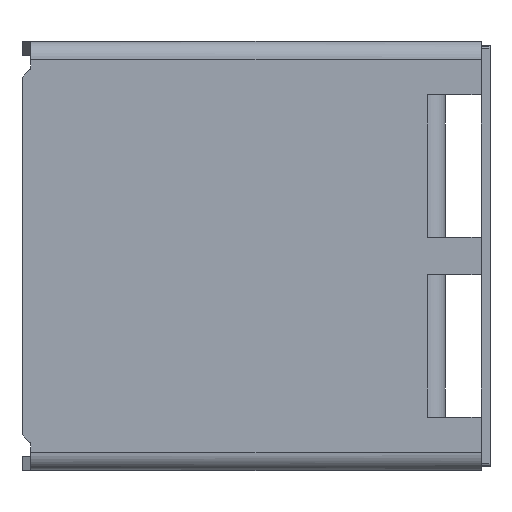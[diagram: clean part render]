
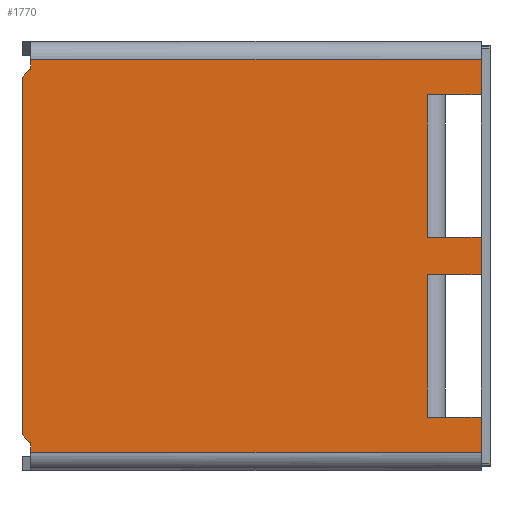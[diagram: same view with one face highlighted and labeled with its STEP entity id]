
A CAD part, left-side view. The second image highlights one B-rep face of the part: STEP entity #1770.
In plain terms, the highlighted planar face has unit normal (-1, 0, 0).
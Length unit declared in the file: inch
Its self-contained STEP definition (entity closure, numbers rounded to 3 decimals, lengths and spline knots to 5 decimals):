
#17 = CARTESIAN_POINT ( 'NONE',  ( 0., 7., 6. ) ) ;
#37 = LINE ( 'NONE', #357, #1996 ) ;
#68 = LINE ( 'NONE', #899, #710 ) ;
#133 = CARTESIAN_POINT ( 'NONE',  ( 0., 5., 42.125 ) ) ;
#192 = EDGE_CURVE ( 'NONE', #2138, #1402, #289, .T. ) ;
#228 = DIRECTION ( 'NONE',  ( 0., 1., 0. ) ) ;
#244 = LINE ( 'NONE', #1327, #1728 ) ;
#289 = LINE ( 'NONE', #2495, #3154 ) ;
#324 = LINE ( 'NONE', #3228, #1017 ) ;
#357 = CARTESIAN_POINT ( 'NONE',  ( 0., 5., 6. ) ) ;
#426 = VERTEX_POINT ( 'NONE', #1163 ) ;
#538 = ORIENTED_EDGE ( 'NONE', *, *, #192, .T. ) ;
#555 = DIRECTION ( 'NONE',  ( 0., -1., 0. ) ) ;
#607 = EDGE_CURVE ( 'NONE', #1593, #2138, #2202, .T. ) ;
#643 = VERTEX_POINT ( 'NONE', #921 ) ;
#646 = EDGE_LOOP ( 'NONE', ( #1546, #1949, #2734, #2028, #3415, #1607, #2045, #538, #1563, #1572, #1511, #2904, #3107, #2521, #3082, #2588 ) ) ;
#667 = CARTESIAN_POINT ( 'NONE',  ( 0., 51.5, 45.12503 ) ) ;
#680 = VECTOR ( 'NONE', #2783, 39.37008 ) ;
#710 = VECTOR ( 'NONE', #1421, 39.37008 ) ;
#752 = VECTOR ( 'NONE', #1660, 39.37008 ) ;
#821 = VECTOR ( 'NONE', #2740, 39.37008 ) ;
#847 = DIRECTION ( 'NONE',  ( 0., 0., -1. ) ) ;
#853 = LINE ( 'NONE', #1597, #2939 ) ;
#876 = DIRECTION ( 'NONE',  ( 0., -1., 0. ) ) ;
#877 = DIRECTION ( 'NONE',  ( 0., 0., 1. ) ) ;
#899 = CARTESIAN_POINT ( 'NONE',  ( 0., 51.5, 24.0625 ) ) ;
#921 = CARTESIAN_POINT ( 'NONE',  ( 0., 7., 21.9375 ) ) ;
#975 = CARTESIAN_POINT ( 'NONE',  ( 0., 1., 6. ) ) ;
#998 = CARTESIAN_POINT ( 'NONE',  ( 0., 52.5, 44.12497 ) ) ;
#1017 = VECTOR ( 'NONE', #555, 39.37008 ) ;
#1041 = CARTESIAN_POINT ( 'NONE',  ( 0., 51.5, 2. ) ) ;
#1043 = EDGE_CURVE ( 'NONE', #3243, #1633, #1520, .T. ) ;
#1047 = EDGE_CURVE ( 'NONE', #1593, #2375, #2982, .T. ) ;
#1058 = EDGE_CURVE ( 'NONE', #426, #2375, #2903, .T. ) ;
#1064 = EDGE_CURVE ( 'NONE', #426, #2421, #1442, .T. ) ;
#1067 = CARTESIAN_POINT ( 'NONE',  ( 0., 36.28284, -12.21812 ) ) ;
#1071 = CARTESIAN_POINT ( 'NONE',  ( 0., 0., 2. ) ) ;
#1073 = EDGE_CURVE ( 'NONE', #2421, #643, #2822, .T. ) ;
#1076 = EDGE_CURVE ( 'NONE', #2983, #643, #2248, .T. ) ;
#1096 = EDGE_CURVE ( 'NONE', #2983, #2040, #37, .T. ) ;
#1101 = CARTESIAN_POINT ( 'NONE',  ( 0., 1., 24.0625 ) ) ;
#1114 = EDGE_CURVE ( 'NONE', #3243, #3394, #3430, .T. ) ;
#1137 = CARTESIAN_POINT ( 'NONE',  ( 0., 7., 24.0625 ) ) ;
#1163 = CARTESIAN_POINT ( 'NONE',  ( 0., 1., 26.1875 ) ) ;
#1186 = CARTESIAN_POINT ( 'NONE',  ( 0., 1., 2. ) ) ;
#1223 = EDGE_CURVE ( 'NONE', #2059, #1402, #324, .T. ) ;
#1235 = EDGE_CURVE ( 'NONE', #2040, #1995, #244, .T. ) ;
#1240 = EDGE_CURVE ( 'NONE', #1633, #2059, #853, .T. ) ;
#1244 = EDGE_CURVE ( 'NONE', #3394, #2435, #3021, .T. ) ;
#1327 = CARTESIAN_POINT ( 'NONE',  ( 0., 1., 24.0625 ) ) ;
#1348 = VECTOR ( 'NONE', #2493, 39.37008 ) ;
#1354 = DIRECTION ( 'NONE',  ( 0., -1., 0. ) ) ;
#1367 = DIRECTION ( 'NONE',  ( 0., 0., -1. ) ) ;
#1395 = CARTESIAN_POINT ( 'NONE',  ( 0., 5., 26.1875 ) ) ;
#1402 = VERTEX_POINT ( 'NONE', #3296 ) ;
#1421 = DIRECTION ( 'NONE',  ( 0., 0., -1. ) ) ;
#1440 = VECTOR ( 'NONE', #2230, 39.37008 ) ;
#1442 = LINE ( 'NONE', #1101, #2086 ) ;
#1511 = ORIENTED_EDGE ( 'NONE', *, *, #1043, .F. ) ;
#1520 = LINE ( 'NONE', #2458, #821 ) ;
#1528 = CARTESIAN_POINT ( 'NONE',  ( 0., 51.5, 46.125 ) ) ;
#1546 = ORIENTED_EDGE ( 'NONE', *, *, #1096, .F. ) ;
#1559 = EDGE_CURVE ( 'NONE', #2435, #3435, #68, .T. ) ;
#1560 = VECTOR ( 'NONE', #2152, 39.37008 ) ;
#1563 = ORIENTED_EDGE ( 'NONE', *, *, #1223, .F. ) ;
#1572 = ORIENTED_EDGE ( 'NONE', *, *, #1240, .F. ) ;
#1593 = VERTEX_POINT ( 'NONE', #3083 ) ;
#1597 = CARTESIAN_POINT ( 'NONE',  ( 0., 51.5, 24.0625 ) ) ;
#1607 = ORIENTED_EDGE ( 'NONE', *, *, #1047, .F. ) ;
#1633 = VERTEX_POINT ( 'NONE', #667 ) ;
#1660 = DIRECTION ( 'NONE',  ( 0., 1., 0. ) ) ;
#1707 = VECTOR ( 'NONE', #1354, 39.37008 ) ;
#1728 = VECTOR ( 'NONE', #2974, 39.37008 ) ;
#1770 = ADVANCED_FACE ( 'NONE', ( #2546 ), #3432, .F. ) ;
#1798 = DIRECTION ( 'NONE',  ( 1., 0., 0. ) ) ;
#1865 = CARTESIAN_POINT ( 'NONE',  ( 0., 7., 26.1875 ) ) ;
#1904 = CARTESIAN_POINT ( 'NONE',  ( 0., 7., 24.0625 ) ) ;
#1949 = ORIENTED_EDGE ( 'NONE', *, *, #1076, .T. ) ;
#1995 = VERTEX_POINT ( 'NONE', #1186 ) ;
#1996 = VECTOR ( 'NONE', #876, 39.37008 ) ;
#2028 = ORIENTED_EDGE ( 'NONE', *, *, #1064, .F. ) ;
#2040 = VERTEX_POINT ( 'NONE', #975 ) ;
#2045 = ORIENTED_EDGE ( 'NONE', *, *, #607, .T. ) ;
#2059 = VERTEX_POINT ( 'NONE', #1528 ) ;
#2086 = VECTOR ( 'NONE', #1367, 39.37008 ) ;
#2138 = VERTEX_POINT ( 'NONE', #2371 ) ;
#2152 = DIRECTION ( 'NONE',  ( 0., -0.707, -0.707 ) ) ;
#2161 = VECTOR ( 'NONE', #847, 39.37008 ) ;
#2202 = LINE ( 'NONE', #133, #2771 ) ;
#2216 = CARTESIAN_POINT ( 'NONE',  ( 0., 5., 21.9375 ) ) ;
#2230 = DIRECTION ( 'NONE',  ( 0., 0., -1. ) ) ;
#2248 = LINE ( 'NONE', #1137, #1348 ) ;
#2371 = CARTESIAN_POINT ( 'NONE',  ( 0., 1., 42.125 ) ) ;
#2375 = VERTEX_POINT ( 'NONE', #1865 ) ;
#2396 = EDGE_CURVE ( 'NONE', #3435, #1995, #2431, .T. ) ;
#2421 = VERTEX_POINT ( 'NONE', #2732 ) ;
#2431 = LINE ( 'NONE', #1071, #1707 ) ;
#2435 = VERTEX_POINT ( 'NONE', #2459 ) ;
#2458 = CARTESIAN_POINT ( 'NONE',  ( 0., 36.28284, 60.34312 ) ) ;
#2459 = CARTESIAN_POINT ( 'NONE',  ( 0., 51.5, 2.99997 ) ) ;
#2493 = DIRECTION ( 'NONE',  ( 0., 0., 1. ) ) ;
#2495 = CARTESIAN_POINT ( 'NONE',  ( 0., 1., 24.0625 ) ) ;
#2509 = CARTESIAN_POINT ( 'NONE',  ( 0., 52.5, 24.0625 ) ) ;
#2521 = ORIENTED_EDGE ( 'NONE', *, *, #1559, .T. ) ;
#2546 = FACE_OUTER_BOUND ( 'NONE', #646, .T. ) ;
#2588 = ORIENTED_EDGE ( 'NONE', *, *, #1235, .F. ) ;
#2655 = AXIS2_PLACEMENT_3D ( 'NONE', #2907, #1798, #228 ) ;
#2701 = DIRECTION ( 'NONE',  ( 0., 0., 1. ) ) ;
#2732 = CARTESIAN_POINT ( 'NONE',  ( 0., 1., 21.9375 ) ) ;
#2734 = ORIENTED_EDGE ( 'NONE', *, *, #1073, .F. ) ;
#2740 = DIRECTION ( 'NONE',  ( 0., -0.707, 0.707 ) ) ;
#2771 = VECTOR ( 'NONE', #3328, 39.37008 ) ;
#2783 = DIRECTION ( 'NONE',  ( 0., 1., 0. ) ) ;
#2822 = LINE ( 'NONE', #2216, #680 ) ;
#2903 = LINE ( 'NONE', #1395, #752 ) ;
#2904 = ORIENTED_EDGE ( 'NONE', *, *, #1114, .T. ) ;
#2907 = CARTESIAN_POINT ( 'NONE',  ( 0., 0., 24.0625 ) ) ;
#2931 = CARTESIAN_POINT ( 'NONE',  ( 0., 52.5, 4.00003 ) ) ;
#2939 = VECTOR ( 'NONE', #2701, 39.37008 ) ;
#2974 = DIRECTION ( 'NONE',  ( 0., 0., -1. ) ) ;
#2982 = LINE ( 'NONE', #1904, #2161 ) ;
#2983 = VERTEX_POINT ( 'NONE', #17 ) ;
#3021 = LINE ( 'NONE', #1067, #1560 ) ;
#3082 = ORIENTED_EDGE ( 'NONE', *, *, #2396, .T. ) ;
#3083 = CARTESIAN_POINT ( 'NONE',  ( 0., 7., 42.125 ) ) ;
#3107 = ORIENTED_EDGE ( 'NONE', *, *, #1244, .T. ) ;
#3154 = VECTOR ( 'NONE', #877, 39.37008 ) ;
#3228 = CARTESIAN_POINT ( 'NONE',  ( 0., 0., 46.125 ) ) ;
#3243 = VERTEX_POINT ( 'NONE', #998 ) ;
#3296 = CARTESIAN_POINT ( 'NONE',  ( 0., 1., 46.125 ) ) ;
#3328 = DIRECTION ( 'NONE',  ( 0., -1., 0. ) ) ;
#3394 = VERTEX_POINT ( 'NONE', #2931 ) ;
#3415 = ORIENTED_EDGE ( 'NONE', *, *, #1058, .T. ) ;
#3430 = LINE ( 'NONE', #2509, #1440 ) ;
#3432 = PLANE ( 'NONE',  #2655 ) ;
#3435 = VERTEX_POINT ( 'NONE', #1041 ) ;
